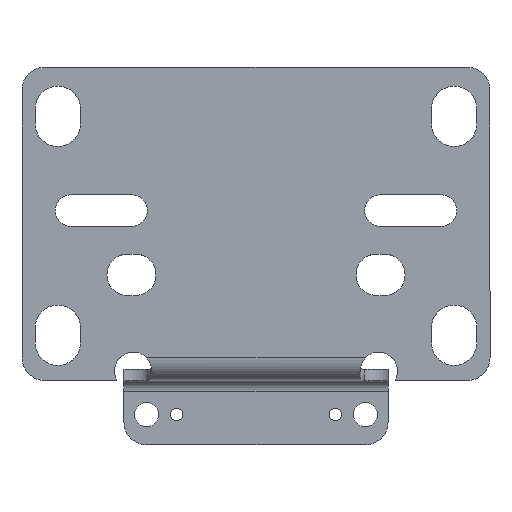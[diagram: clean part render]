
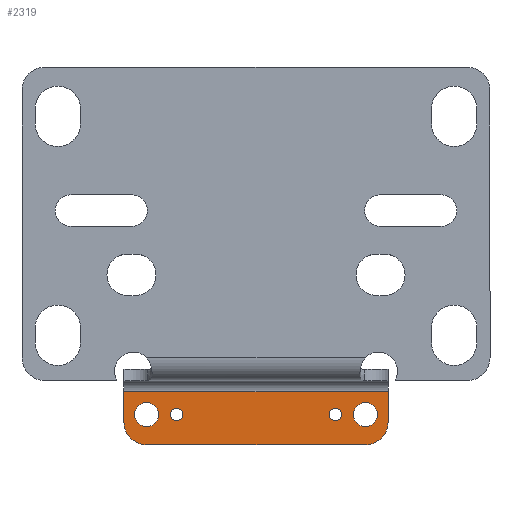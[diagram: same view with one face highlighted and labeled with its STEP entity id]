
A CAD part, top view. The second image highlights one B-rep face of the part: STEP entity #2319.
In plain terms, the highlighted planar face has unit normal (0, 0, 1).
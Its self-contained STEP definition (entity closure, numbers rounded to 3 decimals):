
#73=CARTESIAN_POINT('',(35.0,-2.,3.0));
#74=VERTEX_POINT('',#73);
#75=CARTESIAN_POINT('',(29.0,-8.,3.0));
#76=VERTEX_POINT('',#75);
#77=CARTESIAN_POINT('',(29.0,-2.,3.0));
#78=DIRECTION('',(0.0,0.0,-1.0));
#79=DIRECTION('',(0.707,-0.707,0.0));
#80=AXIS2_PLACEMENT_3D('',#77,#78,#79);
#81=CIRCLE('',#80,6.);
#82=EDGE_CURVE('',#74,#76,#81,.T.);
#157=CARTESIAN_POINT('',(35.0,6.,3.0));
#158=VERTEX_POINT('',#157);
#166=CARTESIAN_POINT('',(35.0,6.,3.0));
#167=DIRECTION('',(0.0,-1.0,0.0));
#168=VECTOR('',#167,8.);
#169=LINE('',#166,#168);
#170=EDGE_CURVE('',#158,#74,#169,.T.);
#1151=CARTESIAN_POINT('',(-29.,-8.,3.0));
#1152=VERTEX_POINT('',#1151);
#1153=CARTESIAN_POINT('',(-35.0,-2.,3.0));
#1154=VERTEX_POINT('',#1153);
#1155=CARTESIAN_POINT('',(-29.,-2.,3.0));
#1156=DIRECTION('',(0.0,0.0,-1.0));
#1157=DIRECTION('',(-0.707,-0.707,0.0));
#1158=AXIS2_PLACEMENT_3D('',#1155,#1156,#1157);
#1159=CIRCLE('',#1158,6.0);
#1160=EDGE_CURVE('',#1152,#1154,#1159,.T.);
#1184=CARTESIAN_POINT('',(-35.0,6.,3.0));
#1185=VERTEX_POINT('',#1184);
#1186=CARTESIAN_POINT('',(-35.0,-2.,3.0));
#1187=DIRECTION('',(0.0,1.0,0.0));
#1188=VECTOR('',#1187,8.);
#1189=LINE('',#1186,#1188);
#1190=EDGE_CURVE('',#1154,#1185,#1189,.T.);
#1280=CARTESIAN_POINT('',(25.8,0.,3.0));
#1281=VERTEX_POINT('',#1280);
#1282=CARTESIAN_POINT('',(29.,0.0,3.0));
#1283=DIRECTION('',(0.0,0.0,-1.0));
#1284=DIRECTION('',(1.0,0.0,0.0));
#1285=AXIS2_PLACEMENT_3D('',#1282,#1283,#1284);
#1286=CIRCLE('',#1285,3.2);
#1287=EDGE_CURVE('',#1281,#1281,#1286,.T.);
#1300=CARTESIAN_POINT('',(19.35,0.,3.0));
#1301=VERTEX_POINT('',#1300);
#1302=CARTESIAN_POINT('',(21.0,0.0,3.0));
#1303=DIRECTION('',(0.0,0.0,-1.0));
#1304=DIRECTION('',(1.0,0.0,0.0));
#1305=AXIS2_PLACEMENT_3D('',#1302,#1303,#1304);
#1306=CIRCLE('',#1305,1.65);
#1307=EDGE_CURVE('',#1301,#1301,#1306,.T.);
#1320=CARTESIAN_POINT('',(-22.65,0.,3.0));
#1321=VERTEX_POINT('',#1320);
#1322=CARTESIAN_POINT('',(-21.,0.0,3.0));
#1323=DIRECTION('',(0.0,0.0,-1.0));
#1324=DIRECTION('',(1.0,0.0,0.0));
#1325=AXIS2_PLACEMENT_3D('',#1322,#1323,#1324);
#1326=CIRCLE('',#1325,1.65);
#1327=EDGE_CURVE('',#1321,#1321,#1326,.T.);
#1340=CARTESIAN_POINT('',(-32.2,0.,3.0));
#1341=VERTEX_POINT('',#1340);
#1342=CARTESIAN_POINT('',(-29.,0.0,3.0));
#1343=DIRECTION('',(0.0,0.0,-1.0));
#1344=DIRECTION('',(1.0,0.0,0.0));
#1345=AXIS2_PLACEMENT_3D('',#1342,#1343,#1344);
#1346=CIRCLE('',#1345,3.2);
#1347=EDGE_CURVE('',#1341,#1341,#1346,.T.);
#2267=CARTESIAN_POINT('',(35.0,6.,3.0));
#2268=DIRECTION('',(-1.0,0.0,0.0));
#2269=VECTOR('',#2268,70.0);
#2270=LINE('',#2267,#2269);
#2271=EDGE_CURVE('',#158,#1185,#2270,.T.);
#2283=CARTESIAN_POINT('',(29.0,-8.,3.0));
#2284=DIRECTION('',(-1.0,0.0,0.0));
#2285=VECTOR('',#2284,58.0);
#2286=LINE('',#2283,#2285);
#2287=EDGE_CURVE('',#76,#1152,#2286,.T.);
#2294=CARTESIAN_POINT('',(0.,2.,3.0));
#2295=DIRECTION('',(0.0,0.0,1.0));
#2296=DIRECTION('',(1.0,0.0,0.0));
#2297=AXIS2_PLACEMENT_3D('',#2294,#2295,#2296);
#2298=PLANE('',#2297);
#2299=ORIENTED_EDGE('',*,*,#82,.F.);
#2300=ORIENTED_EDGE('',*,*,#170,.F.);
#2301=ORIENTED_EDGE('',*,*,#2271,.T.);
#2302=ORIENTED_EDGE('',*,*,#1190,.F.);
#2303=ORIENTED_EDGE('',*,*,#1160,.F.);
#2304=ORIENTED_EDGE('',*,*,#2287,.F.);
#2305=EDGE_LOOP('',(#2299,#2300,#2301,#2302,#2303,#2304));
#2306=FACE_OUTER_BOUND('',#2305,.T.);
#2307=ORIENTED_EDGE('',*,*,#1287,.T.);
#2308=EDGE_LOOP('',(#2307));
#2309=FACE_BOUND('',#2308,.T.);
#2310=ORIENTED_EDGE('',*,*,#1307,.T.);
#2311=EDGE_LOOP('',(#2310));
#2312=FACE_BOUND('',#2311,.T.);
#2313=ORIENTED_EDGE('',*,*,#1327,.T.);
#2314=EDGE_LOOP('',(#2313));
#2315=FACE_BOUND('',#2314,.T.);
#2316=ORIENTED_EDGE('',*,*,#1347,.T.);
#2317=EDGE_LOOP('',(#2316));
#2318=FACE_BOUND('',#2317,.T.);
#2319=ADVANCED_FACE('',(#2306,#2309,#2312,#2315,#2318),#2298,.T.);
